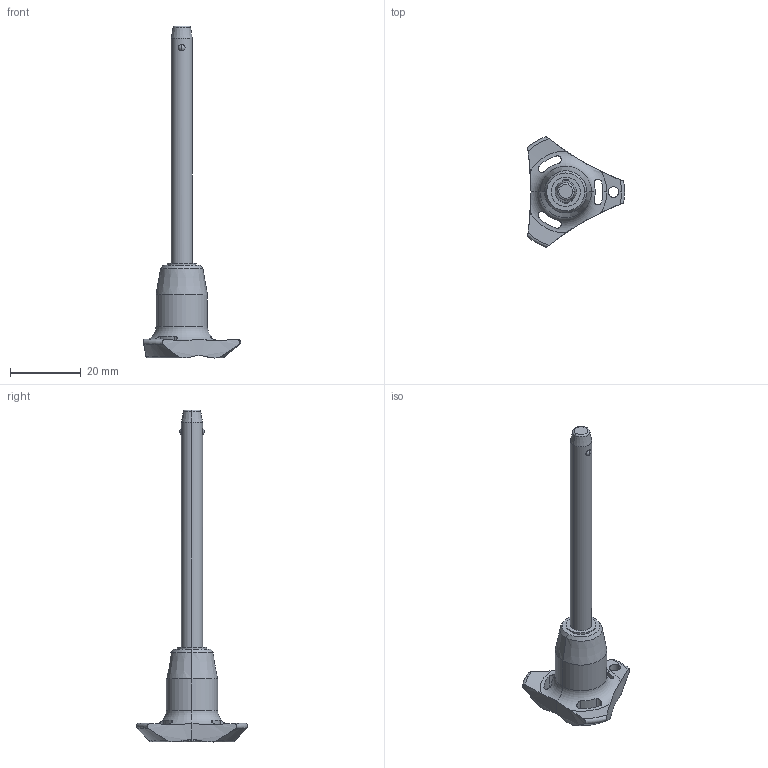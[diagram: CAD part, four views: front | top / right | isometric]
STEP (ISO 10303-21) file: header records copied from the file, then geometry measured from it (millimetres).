
FILE_DESCRIPTION (( 'STEP AP203' ), '1' );
FILE_NAME ('QR1734.M06-060-S.step', '2025-11-12T14:11:36', ( '' ), ( '' ), 'SwSTEP 2.0', 'SolidWorks 2019', '' );
FILE_SCHEMA (( 'CONFIG_CONTROL_DESIGN' ));
Length unit declared in the file: millimetre
Products named in the file (1): QR1734.M06-060-S
Bounding box: 27.4 x 31.31 x 93.7 mm (x, y, z)
Volume: 6662.5 mm3; surface area: 3683.8 mm2
Topology: 1 solids, 1 shells, 66 faces, 181 edges, 115 vertices
Faces by surface type: cylinder 30, cone 14, torus 12, sphere 6, plane 4
Entity records: 2709 total; most frequent: CARTESIAN_POINT 997, ORIENTED_EDGE 362, DIRECTION 332, EDGE_CURVE 181, AXIS2_PLACEMENT_3D 148, VERTEX_POINT 115, CIRCLE 81, EDGE_LOOP 72
